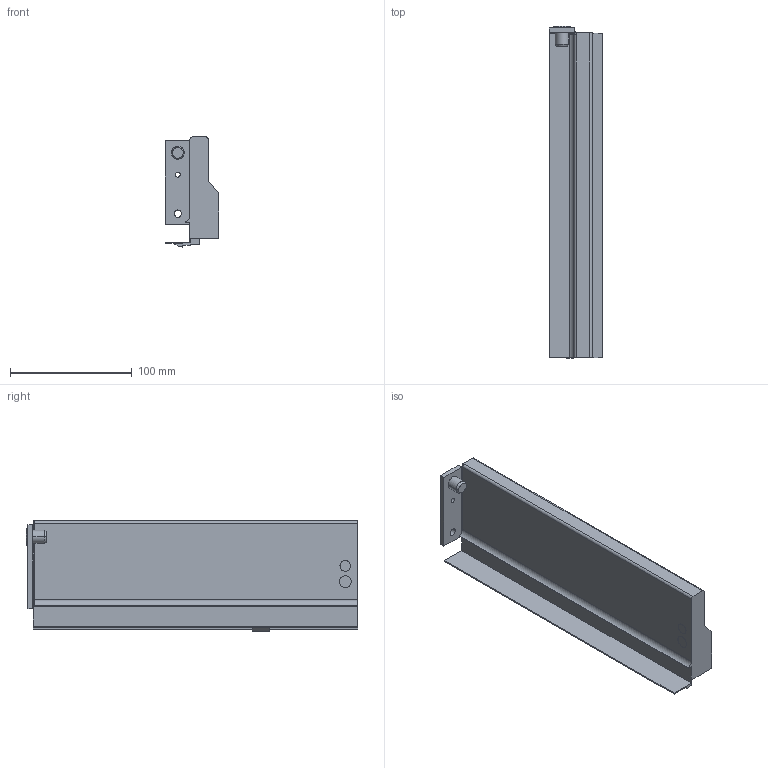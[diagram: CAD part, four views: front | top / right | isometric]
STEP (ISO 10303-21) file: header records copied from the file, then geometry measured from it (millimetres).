
FILE_DESCRIPTION (( 'STEP AP214' ), '1' );
FILE_NAME ('_IMOS_NOVA-Pro_Dekor-H90_CL_NL270_RE.step', '2010-07-06T09:00:07', ( 'grass' ), ( '' ), 'SwSTEP 2.0', 'SolidWorks 2009', '' );
FILE_SCHEMA (( 'AUTOMOTIVE_DESIGN' ));
Length unit declared in the file: millimetre
Products named in the file (1): _IMOS_NOVA-Pro_Dekor-H90_CL_NL270_RE
Bounding box: 44.3 x 272.7 x 90.49 mm (x, y, z)
Volume: 247368.8 mm3; surface area: 96080.4 mm2
Topology: 1 solids, 1 shells, 89 faces, 239 edges, 156 vertices
Faces by surface type: plane 57, cylinder 27, cone 4, bspline 1
Entity records: 2825 total; most frequent: CARTESIAN_POINT 506, ORIENTED_EDGE 478, DIRECTION 474, EDGE_CURVE 239, VECTOR 178, LINE 178, VERTEX_POINT 156, AXIS2_PLACEMENT_3D 148
